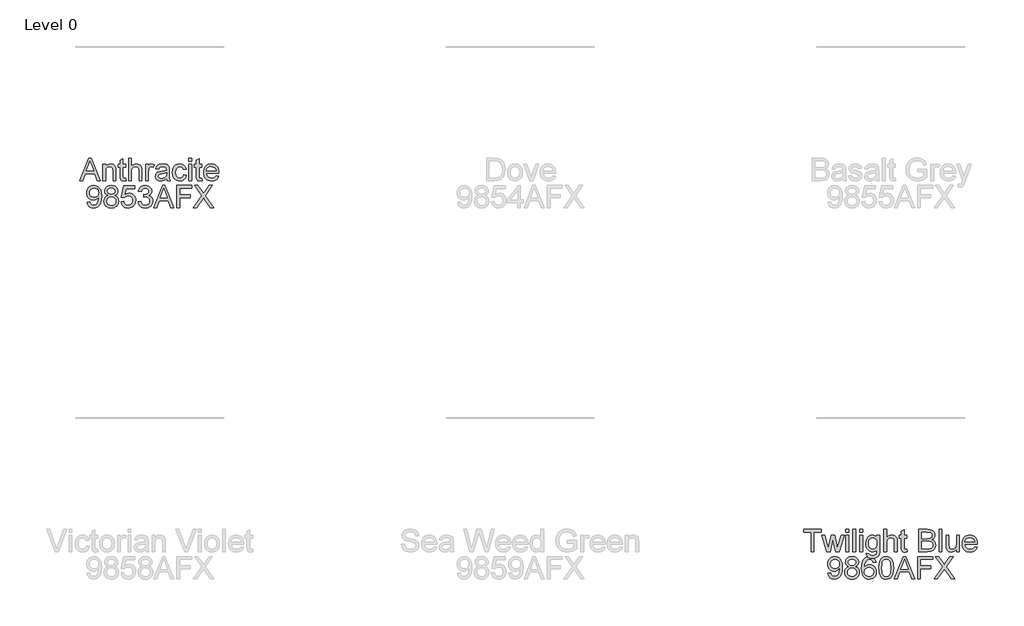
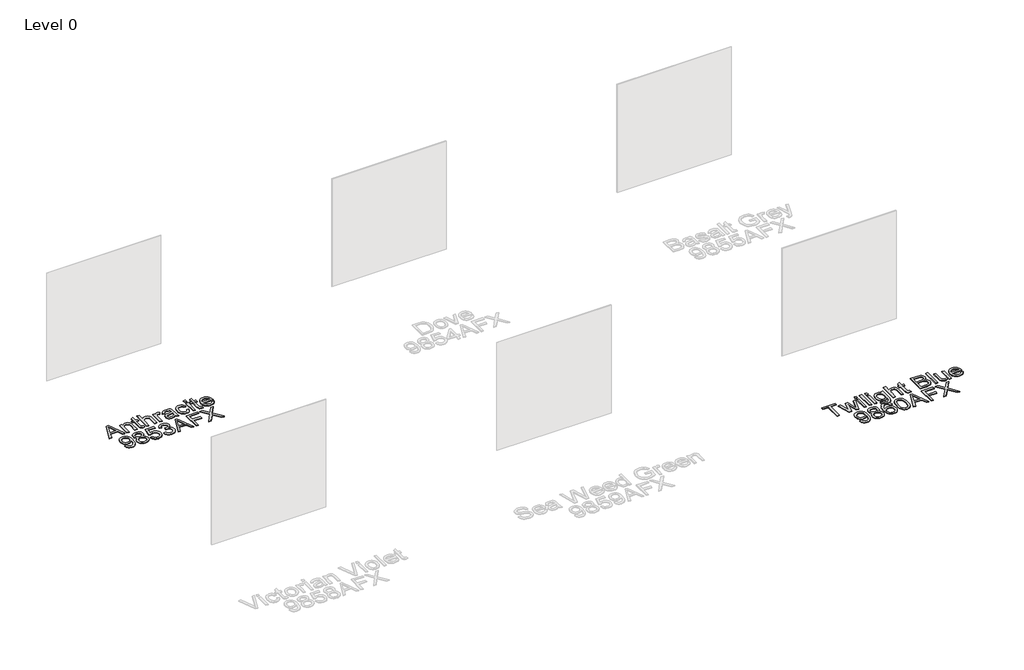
# One storey, part 7 of 10: 2 proxies.
"""IFC4 building model written with IfcOpenShell, lengths in millimetres."""

import ifcopenshell
import ifcopenshell.guid

model = None  # the IFC model being written
_history = None  # IfcOwnerHistory: only IFC2X3 demands one
_inside = {}  # id of a spatial element -> (the spatial element, [elements in it])
_under = {}  # id of a project, library or spatial element -> (it, [spatial elements below it])
_declared = {}  # id of a project -> (the project, [libraries it declares])
_typed = {}  # id of a type object -> (the type object, [elements of that type])
_made_of = {}  # id of a material, layer set ... -> (it, [elements and type objects made of it])


def new_model(schema):
    """Start an empty IFC model of exactly this schema.

    Asked for "IFC4X3", IfcOpenShell would pick the latest addendum, in which some entities
    have other attributes; the version numbers below select the first issue.
    IFC2X3 requires an IfcOwnerHistory on every rooted entity: one is made here for all.
    """
    global model, _history
    if schema == "IFC4X3":
        model = ifcopenshell.file(schema_version=(4, 3, 0, 0))
    else:
        model = ifcopenshell.file(schema=schema)
    _inside.clear()
    _under.clear()
    _declared.clear()
    _typed.clear()
    _made_of.clear()
    _history = None
    if model.schema == "IFC2X3":
        org = make("IfcOrganization", Name="unknown")
        user = make(
            "IfcPersonAndOrganization",
            ThePerson=make("IfcPerson", FamilyName="unknown"),
            TheOrganization=org,
        )
        app = make(
            "IfcApplication",
            ApplicationDeveloper=org,
            Version="unknown",
            ApplicationFullName="unknown",
            ApplicationIdentifier="unknown",
        )
        _history = make(
            "IfcOwnerHistory",
            OwningUser=user,
            OwningApplication=app,
            ChangeAction="ADDED",
            CreationDate=0,
        )
    return model


def make(cls, **values):
    """One entity of the class cls with the attributes given. An attribute that is None is left unset."""
    return model.create_entity(
        cls, **{name: value for name, value in values.items() if value is not None}
    )


def rooted(cls, **values):
    """An entity with a GlobalId (a new one), such as an element, a storey or a relation."""
    return make(cls, GlobalId=ifcopenshell.guid.new(), OwnerHistory=_history, **values)


def si_unit(unit_type, name, prefix=None):
    """IfcSIUnit, for example si_unit("LENGTHUNIT", "METRE", prefix="MILLI")."""
    return make("IfcSIUnit", UnitType=unit_type, Prefix=prefix, Name=name)


def assignment(units):
    """IfcUnitAssignment: the units of a project."""
    return None if units is None else make("IfcUnitAssignment", Units=units)


def point(xyz):
    """IfcCartesianPoint."""
    return None if xyz is None else make("IfcCartesianPoint", Coordinates=xyz)


def direction(xyz):
    """IfcDirection."""
    return None if xyz is None else make("IfcDirection", DirectionRatios=xyz)


def frame(location, z_axis=None, x_axis=None):
    """IfcAxis2Placement3D, a coordinate frame: its origin and axes. An axis left out is left unset."""
    return make(
        "IfcAxis2Placement3D",
        Location=point(location),
        Axis=direction(z_axis),
        RefDirection=direction(x_axis),
    )


def origin():
    """The frame at (0, 0, 0) with its axes left unset."""
    return frame((0.0, 0.0, 0.0))


def origin_with_axes():
    """The frame at (0, 0, 0) with the z axis (0, 0, 1) and the x axis (1, 0, 0) written out."""
    return frame((0.0, 0.0, 0.0), z_axis=(0.0, 0.0, 1.0), x_axis=(1.0, 0.0, 0.0))


def place(relative_to, where):
    """IfcLocalPlacement: puts the frame where relative to a parent placement (None: the world)."""
    return make(
        "IfcLocalPlacement", PlacementRelTo=relative_to, RelativePlacement=where
    )


def context(
    kind, dimensions, precision=None, world=None, true_north=None, identifier=None
):
    """IfcGeometricRepresentationContext, for example the 3D "Model" context."""
    return make(
        "IfcGeometricRepresentationContext",
        ContextIdentifier=identifier,
        ContextType=kind,
        CoordinateSpaceDimension=dimensions,
        Precision=precision,
        WorldCoordinateSystem=world,
        TrueNorth=true_north,
    )


def project(units=None, contexts=None):
    """IfcProject with its units and contexts."""
    return rooted(
        "IfcProject",
        Name="project",
        RepresentationContexts=contexts,
        UnitsInContext=assignment(units),
    )


def spatial(cls, under=None, at=None, **own):
    """A site, building, storey or space (cls), placed at a placement, below another one or the project."""
    s = rooted(cls, ObjectPlacement=at, **own)
    if under is not None:
        _under.setdefault(under.id(), (under, []))[1].append(s)
    return s


def polyline(points):
    """IfcPolyline through the points."""
    return make("IfcPolyline", Points=[point(p) for p in points])


def outline(outer, holes=None, kind="AREA"):
    """IfcArbitraryClosedProfileDef: a profile drawn as a closed curve; with holes, ...WithVoids."""
    if holes is None:
        return make("IfcArbitraryClosedProfileDef", ProfileType=kind, OuterCurve=outer)
    return make(
        "IfcArbitraryProfileDefWithVoids",
        ProfileType=kind,
        OuterCurve=outer,
        InnerCurves=holes,
    )


def extrude(swept, where, along, depth):
    """IfcExtrudedAreaSolid: the profile swept, set in the frame where, extruded along a direction by depth."""
    return make(
        "IfcExtrudedAreaSolid",
        SweptArea=swept,
        Position=where,
        ExtrudedDirection=direction(along),
        Depth=depth,
    )


def shape(context_of_items, identifier, shape_type, items):
    """IfcShapeRepresentation: the items that make up one representation, for example the "Body"."""
    return make(
        "IfcShapeRepresentation",
        ContextOfItems=context_of_items,
        RepresentationIdentifier=identifier,
        RepresentationType=shape_type,
        Items=items,
    )


def made_of(thing, what):
    """Note that an element or type object is made of a material, layer set ...; save() writes the relation."""
    if what is not None:
        _made_of.setdefault(what.id(), (what, []))[1].append(thing)
    return thing


def element(
    cls,
    number,
    at=None,
    inside=None,
    cuts=None,
    type_object=None,
    material=None,
    context=None,
    identifier="Body",
    shape_type=None,
    held_by="IfcProductDefinitionShape",
    body=None,
    shapes=None,
    **own,
):
    """One element of the class cls, such as IfcWall. Its Tag is "e" and its number.

    at: its placement. inside: the storey or other place that contains it. cuts: it is an
    opening in that element (IfcRelVoidsElement). A single representation is given by context,
    identifier, shape_type and body (its items); several are given by shapes. held_by: the class
    of the entity that holds the representations. save() writes the other relations.
    """
    e = rooted(cls, Tag="e%d" % number, ObjectPlacement=at, **own)
    if body is not None:
        shapes = [shape(context, identifier, shape_type, body)]
    if shapes is not None:
        e.Representation = make(held_by, Representations=shapes)
    if inside is not None:
        _inside.setdefault(inside.id(), (inside, []))[1].append(e)
    if cuts is not None:
        rooted(
            "IfcRelVoidsElement", RelatingBuildingElement=cuts, RelatedOpeningElement=e
        )
    if type_object is not None:
        _typed.setdefault(type_object.id(), (type_object, []))[1].append(e)
    return made_of(e, material)


def aggregate(whole, parts):
    """IfcRelAggregates: a whole, such as a stair, and the parts it consists of."""
    return rooted("IfcRelAggregates", RelatingObject=whole, RelatedObjects=parts)


def save(model, path):
    """Write the relations noted so far, then the file.

    IfcRelAggregates (storeys below a building ...), IfcRelContainedInSpatialStructure (elements
    in a storey), IfcRelDefinesByType, IfcRelAssociatesMaterial and IfcRelDeclares: one each for
    every whole, place, type object, material and project.
    """
    for whole, parts in _under.values():
        aggregate(whole, parts)
    for where, things in _inside.values():
        rooted(
            "IfcRelContainedInSpatialStructure",
            RelatedElements=things,
            RelatingStructure=where,
        )
    for kind, things in _typed.values():
        rooted("IfcRelDefinesByType", RelatedObjects=things, RelatingType=kind)
    for what, things in _made_of.values():
        rooted("IfcRelAssociatesMaterial", RelatedObjects=things, RelatingMaterial=what)
    for by, libraries in _declared.values():
        rooted("IfcRelDeclares", RelatingContext=by, RelatedDefinitions=libraries)
    model.write(path)


model = new_model("IFC4")

# Units and contexts
model_context = context("Model", 3, world=origin())
ifc_project = project(units=[si_unit("LENGTHUNIT", "METRE", prefix="MILLI")], contexts=[model_context])

# Site, building, storey
site = spatial("IfcSite", under=ifc_project)
building = spatial("IfcBuilding", under=site)
storey = spatial("IfcBuildingStorey", under=building, Name="Level 0", Elevation=0.0)

# Proxies
placement = place(None, origin())
element("IfcBuildingElementProxy", 1, Name="300mm Arial", ObjectType="300mm Arial", at=placement, inside=storey, context=model_context, shape_type="SweptSolid", body=[
    extrude(outline(polyline([(-394.5696795, -7002.860494), (-274.2722671, -6701.4915635), (-242.1929571, -6701.4915635), (-121.8955447, -7002.860494), (-161.7003766, -7002.860494), (-196.2077077, -6908.6827032), (-320.3310929, -6908.6827032), (-354.7648477, -7002.860494), (-394.5696795, -7002.860494)]), holes=[polyline([(-306.4987299, -6871.0115869), (-209.9664944, -6871.0115869), (-237.1161856, -6796.9201531), (-258.2326121, -6739.1626798), (-276.9945939, -6790.44543), (-306.4987299, -6871.0115869)])]), origin_with_axes(), (0.0, 0.0, 1.0), 10.0),
    extrude(outline(polyline([(-86.358144, -7002.860494), (-86.358144, -6781.5426857), (-48.6870277, -6781.5426857), (-48.6870277, -6812.4447733), (-35.5996257, -6796.8649708), (-19.8818674, -6785.7365404), (-1.5337529, -6779.0594822), (19.4447178, -6776.8337961), (38.0135615, -6778.6272209), (55.0189068, -6784.0074951), (69.2007577, -6792.303234), (79.2991185, -6802.8430532), (90.5930957, -6830.5445674), (92.5796585, -6866.964885), (92.5796585, -7002.860494), (54.9085422, -7002.860494), (54.9085422, -6872.0416565), (50.5675346, -6838.7115477), (44.5618611, -6828.7879309), (35.2268554, -6821.0900002), (23.2614935, -6816.1511844), (9.3647512, -6814.5049125), (-12.6989715, -6818.2021265), (-31.5069385, -6829.2937687), (-39.0232275, -6838.3482643), (-44.3920054, -6850.7228949), (-48.6870277, -6885.4325611), (-48.6870277, -7002.860494), (-86.358144, -7002.860494)])), origin_with_axes(), (0.0, 0.0, 1.0), 10.0),
    extrude(outline(polyline([(224.4285656, -6971.4433716), (229.1374551, -7003.96414), (200.9576943, -7007.5693835), (182.8762942, -7006.005885), (169.3934191, -7001.3153896), (159.8652754, -6994.0865084), (153.6480697, -6984.9078526), (150.2267671, -6969.1441091), (149.0863329, -6942.1599648), (149.0863329, -6819.213802), (120.8329957, -6819.213802), (120.8329957, -6781.5426857), (149.0863329, -6781.5426857), (149.0863329, -6727.758338), (186.7574492, -6705.6118419), (186.7574492, -6781.5426857), (224.4285656, -6781.5426857), (224.4285656, -6819.213802), (186.7574492, -6819.213802), (186.7574492, -6941.0563188), (188.744012, -6960.4804881), (195.1819469, -6967.3598814), (208.0210286, -6969.8982672), (224.4285656, -6971.4433716)])), origin_with_axes(), (0.0, 0.0, 1.0), 10.0),
    extrude(outline(polyline([(262.0996819, -7002.860494), (262.0996819, -6701.4915635), (299.7707982, -6701.4915635), (299.7707982, -6812.2976205), (313.6077597, -6796.7821973), (329.1461755, -6785.6997522), (346.3860455, -6779.0502852), (365.3273697, -6776.8337961), (388.0808711, -6779.2526203), (407.6337992, -6786.5090926), (423.0296606, -6798.0329961), (433.3119624, -6813.2541137), (439.1061038, -6834.1682051), (441.0374843, -6862.7710302), (441.0374843, -7002.860494), (403.366368, -7002.860494), (403.366368, -6866.6705794), (400.3681297, -6843.0893435), (391.373415, -6826.9393239), (376.8788644, -6817.6135153), (357.3811186, -6814.5049125), (341.4610253, -6816.6018398), (326.5158192, -6822.8926219), (314.1365901, -6832.7702535), (305.9144275, -6845.6277292), (301.3067055, -6862.7158479), (299.7707982, -6885.2854083), (299.7707982, -7002.860494), (262.0996819, -7002.860494)])), origin_with_axes(), (0.0, 0.0, 1.0), 10.0),
    extrude(outline(polyline([(492.8352692, -7002.860494), (492.8352692, -6781.5426857), (525.797496, -6781.5426857), (525.797496, -6814.2841833), (537.97439, -6795.3014723), (549.1947909, -6784.1178596), (560.4519799, -6778.654812), (572.7392386, -6776.8337961), (591.5012203, -6779.7400639), (610.5575077, -6788.4588672), (597.9759435, -6822.2304343), (584.7321916, -6816.4362929), (571.4884398, -6814.5049125), (560.2404478, -6816.3627165), (550.1880723, -6821.9361288), (542.0670772, -6830.8020848), (536.6132267, -6842.5375205), (532.0330958, -6863.5803706), (530.5063855, -6886.5362071), (530.5063855, -7002.860494), (492.8352692, -7002.860494)])), origin_with_axes(), (0.0, 0.0, 1.0), 10.0),
    extrude(outline(polyline([(775.3686415, -6974.6071568), (757.3700149, -6990.0398064), (738.8379594, -7000.1381672), (719.3494107, -7005.7115794), (698.4813045, -7007.5693835), (666.9998028, -7003.0996173), (643.7772519, -6989.6903186), (629.4574452, -6969.3280501), (624.6841763, -6943.9993748), (626.4867981, -6928.3827841), (631.8946634, -6914.2009331), (640.2363877, -6902.0608273), (650.8405862, -6892.5694718), (677.2177252, -6880.2086368), (709.81207, -6874.5432541), (748.3293149, -6868.5835657), (775.1479123, -6861.5938078), (775.3686415, -6853.2060983), (772.7750735, -6836.3938912), (764.9943693, -6825.3942195), (747.5935509, -6817.2272392), (723.3501274, -6814.5049125), (700.9093257, -6816.3167313), (685.2375527, -6821.7521878), (674.5505808, -6831.8045633), (667.0641821, -6847.4671392), (629.3930658, -6842.7582497), (635.9321683, -6822.156858), (645.6902382, -6805.9700502), (659.5777835, -6793.590821), (678.5053122, -6784.4121652), (701.6542867, -6778.7283884), (728.2061697, -6776.8337961), (753.6728009, -6778.5076592), (773.8603253, -6783.5292485), (789.0814429, -6791.0800264), (799.6488532, -6800.3414556), (806.6570052, -6811.7917827), (811.2003479, -6825.9092543), (813.0397578, -6858.8714811), (813.0397578, -6905.7396473), (814.9527442, -6971.1858542), (822.4575369, -7002.860494), (784.7864206, -7002.860494), (775.3686415, -6974.6071568)]), holes=[polyline([(775.3686415, -6899.2649241), (714.5945359, -6910.8164188), (682.1841322, -6916.9232599), (667.5056405, -6926.8560738), (662.3552926, -6941.3506244), (665.1603928, -6952.5526311), (673.5756935, -6961.7312869), (687.4172535, -6967.8565221), (706.501132, -6969.8982672), (726.7346418, -6967.64499), (744.6137067, -6960.8851583), (759.1082573, -6950.9247533), (769.188224, -6939.069756), (773.6579903, -6926.8560738), (775.1479123, -6909.933502), (775.3686415, -6899.2649241)])]), origin_with_axes(), (0.0, 0.0, 1.0), 10.0),
    extrude(outline(polyline([(1006.1042289, -6922.8093718), (1043.7753452, -6927.5182614), (1033.2723142, -6961.0231141), (1013.5354452, -6986.3425924), (986.4225422, -7002.2626857), (953.7914092, -7007.5693835), (932.6634864, -7005.7184772), (913.7198629, -7000.1657584), (896.9605387, -6990.9112269), (882.3855139, -6977.9548829), (870.5879982, -6961.5404481), (862.1612012, -6941.9116444), (857.1051231, -6919.0684718), (855.4197637, -6893.0109302), (858.2984403, -6859.4876834), (866.9344701, -6830.4342028), (881.4658089, -6806.9725286), (902.0304125, -6790.2247008), (926.6325209, -6780.1815223), (953.2763744, -6776.8337961), (985.107364, -6781.4323211), (1010.555601, -6795.2278959), (1028.8117451, -6817.4847566), (1039.0664557, -6847.4671392), (1001.3953394, -6852.1760288), (994.5619313, -6835.7409006), (983.9209446, -6823.9594797), (970.0609904, -6816.8685543), (953.57068, -6814.5049125), (929.226089, -6819.1586197), (909.9030872, -6833.1197414), (897.2939318, -6857.1424357), (893.09088, -6891.9808606), (897.2019613, -6927.2883351), (909.5352052, -6951.3938029), (928.5087191, -6965.2721511), (952.5406104, -6969.8982672), (972.0475532, -6967.0103936), (988.0412229, -6958.3467726), (999.675491, -6943.6866751), (1006.1042289, -6922.8093718)])), origin_with_axes(), (0.0, 0.0, 1.0), 10.0),
    extrude(outline(polyline([(1076.737572, -6739.1626798), (1076.737572, -6701.4915635), (1114.4086883, -6701.4915635), (1114.4086883, -6739.1626798), (1076.737572, -6739.1626798)])), origin_with_axes(), (0.0, 0.0, 1.0), 10.0),
    extrude(outline(polyline([(1076.737572, -7002.860494), (1076.737572, -6781.5426857), (1114.4086883, -6781.5426857), (1114.4086883, -7002.860494), (1076.737572, -7002.860494)])), origin_with_axes(), (0.0, 0.0, 1.0), 10.0),
    extrude(outline(polyline([(1250.9664849, -6971.4433716), (1255.6753744, -7003.96414), (1227.4956136, -7007.5693835), (1209.4142135, -7006.005885), (1195.9313384, -7001.3153896), (1186.4031947, -6994.0865084), (1180.185989, -6984.9078526), (1176.7646865, -6969.1441091), (1175.6242523, -6942.1599648), (1175.6242523, -6819.213802), (1147.3709151, -6819.213802), (1147.3709151, -6781.5426857), (1175.6242523, -6781.5426857), (1175.6242523, -6727.758338), (1213.2953686, -6705.6118419), (1213.2953686, -6781.5426857), (1250.9664849, -6781.5426857), (1250.9664849, -6819.213802), (1213.2953686, -6819.213802), (1213.2953686, -6941.0563188), (1215.2819314, -6960.4804881), (1221.7198663, -6967.3598814), (1234.5589479, -6969.8982672), (1250.9664849, -6971.4433716)])), origin_with_axes(), (0.0, 0.0, 1.0), 10.0),
    extrude(outline(polyline([(1443.5894976, -6936.9360404), (1480.5248499, -6941.64493), (1467.2167187, -6969.4752029), (1445.9807305, -6990.2789297), (1417.295132, -7003.2467701), (1381.6381696, -7007.5693835), (1358.2638673, -7005.7046817), (1337.4371479, -7000.1105761), (1319.1580112, -6990.7870668), (1303.4264574, -6977.7341537), (1290.7759153, -6961.3151204), (1281.7398138, -6941.8932503), (1276.3181529, -6919.4685435), (1274.5109326, -6894.0409998), (1276.336547, -6867.7512327), (1281.8133902, -6844.5792656), (1290.9414622, -6824.5250983), (1303.720763, -6807.5887309), (1319.4109301, -6794.133447), (1337.271601, -6784.5225298), (1357.3027756, -6778.7559796), (1379.504454, -6776.8337961), (1400.9910618, -6778.751381), (1420.4221289, -6784.5041357), (1437.7976554, -6794.0920602), (1453.1176412, -6807.5151545), (1465.6233298, -6824.4147337), (1474.5559645, -6844.4321128), (1479.9155453, -6867.5672917), (1481.7020723, -6893.8202706), (1481.4813431, -6903.9738137), (1312.1820489, -6903.9738137), (1318.7027573, -6932.1719686), (1333.8502984, -6952.902119), (1355.711686, -6965.6492302), (1382.3739336, -6969.8982672), (1402.4235023, -6967.9300985), (1419.3092859, -6962.0255925), (1433.0312843, -6951.8168672), (1443.5894976, -6936.9360404)]), holes=[polyline([(1312.1820489, -6866.3026974), (1444.030956, -6866.3026974), (1438.9357903, -6846.4002814), (1428.9477942, -6832.1632482), (1406.985239, -6818.9194964), (1379.3573012, -6814.5049125), (1353.9642465, -6818.0273826), (1332.9673816, -6828.5947929), (1318.3716635, -6845.0667092), (1312.1820489, -6866.3026974)])]), origin_with_axes(), (0.0, 0.0, 1.0), 10.0),
    extrude(outline(polyline([(-295.9037284, -7293.4427149), (-258.2326121, -7288.7338254), (-251.7946772, -7310.1169663), (-241.3100403, -7324.6758963), (-227.0362189, -7333.0360146), (-209.2307304, -7335.8227207), (-193.2554547, -7334.029296), (-178.733313, -7328.6490218), (-166.6667835, -7320.2705094), (-158.0583448, -7309.4823699), (-145.734298, -7276.7408723), (-140.2896445, -7233.0364913), (-140.5103737, -7225.6788514), (-153.5609874, -7241.6081418), (-170.6399091, -7254.2264942), (-190.5147339, -7262.4486568), (-211.9530571, -7265.1893777), (-229.8482169, -7263.5155146), (-246.3040384, -7258.4939254), (-261.3205216, -7250.12461), (-274.8976665, -7238.4075684), (-286.1479578, -7223.9544045), (-294.1838801, -7207.3767221), (-299.0054335, -7188.6745212), (-300.612618, -7167.8478018), (-298.9272586, -7146.326705), (-293.8711804, -7127.0129003), (-285.4443835, -7109.9063875), (-273.6468677, -7095.0071667), (-259.3109662, -7082.9360387), (-243.269012, -7074.3138045), (-225.521005, -7069.1404639), (-206.0669452, -7067.4160171), (-177.9699578, -7071.3523544), (-152.3929621, -7083.1613665), (-131.0006241, -7102.254442), (-115.4576098, -7128.0429699), (-105.9938455, -7163.6907352), (-102.8392574, -7212.3615232), (-105.9846484, -7263.96617), (-115.4208216, -7303.8537754), (-131.0650034, -7333.8269609), (-152.8344205, -7355.6883485), (-179.7909737, -7369.0424649), (-210.9965639, -7373.4938371), (-243.2046326, -7368.2423216), (-268.90119, -7352.4877751), (-286.8722254, -7327.2234791), (-295.9037284, -7293.4427149)]), holes=[polyline([(-140.5103737, -7166.964885), (-144.5754697, -7141.4338745), (-156.7707578, -7121.788976), (-175.6982865, -7109.262594), (-199.9601041, -7105.0871334), (-225.1232326, -7109.5844908), (-245.2831659, -7123.0765629), (-258.5269177, -7143.7239399), (-262.9415017, -7169.6872117), (-258.766041, -7192.964945), (-246.2396591, -7211.4418182), (-226.5763664, -7223.4991506), (-200.9901737, -7227.5182614), (-176.9214941, -7223.4991506), (-157.54331, -7211.4418182), (-144.7686078, -7192.2843633), (-140.5103737, -7166.964885)])]), origin_with_axes(), (0.0, 0.0, 1.0), 10.0),
    extrude(outline(polyline([(-14.9890369, -7202.7965913), (-35.1581673, -7192.8637774), (-49.3124271, -7179.3992964), (-57.6725454, -7162.6790597), (-60.4592515, -7142.9789789), (-58.9417383, -7127.6153071), (-54.3891986, -7113.5300252), (-46.8016324, -7100.7231332), (-36.1790398, -7089.1946312), (-23.031857, -7079.6664875), (-7.8705203, -7072.8606706), (28.4946149, -7067.4160171), (65.0804793, -7072.9894293), (80.407363, -7079.9561946), (93.7568809, -7089.709666), (104.5726115, -7101.4634957), (112.2981334, -7114.4313361), (116.9334466, -7128.613187), (118.4785509, -7144.0090485), (115.728633, -7163.0745329), (107.4788793, -7179.509661), (93.6373192, -7192.8913686), (74.1119823, -7202.7965913), (97.2977451, -7214.7435591), (114.1743316, -7232.3375155), (124.4658304, -7254.732332), (127.89633, -7281.0818799), (126.1948758, -7299.8714528), (121.0905131, -7317.0975272), (112.583242, -7332.7601031), (100.6730624, -7346.8591806), (85.9853737, -7358.5118428), (69.1455754, -7366.8351729), (50.1536674, -7371.829171), (29.0096497, -7373.4938371), (7.865632, -7371.8222732), (-11.126276, -7366.8075818), (-27.9660743, -7358.4497627), (-42.6537629, -7346.748816), (-54.5639425, -7332.5508703), (-63.0712137, -7316.702054), (-68.1755764, -7299.2023674), (-69.8770306, -7280.0518103), (-66.3085752, -7252.6813898), (-55.6032092, -7230.1670117), (-38.3127554, -7213.2812282), (-14.9890369, -7202.7965913)]), holes=[polyline([(-32.2059143, -7278.7274351), (-25.9151322, -7307.0911369), (-17.2055259, -7319.2588339), (-3.6582715, -7328.317928), (12.5653245, -7333.9465226), (29.3039553, -7335.8227207), (54.9453304, -7331.8771864), (74.1855587, -7320.0405832), (86.2153, -7302.1155329), (90.2252137, -7279.9046575), (86.0865413, -7257.316703), (73.6705239, -7238.9961796), (53.9888372, -7226.8560738), (28.0531565, -7222.8093718), (2.7704664, -7226.8008915), (-16.2766239, -7238.7754504), (-28.2235917, -7256.7464859), (-32.2059143, -7278.7274351)]), polyline([(-22.7881352, -7144.0826249), (-19.4496061, -7160.52695), (-9.4340188, -7173.6603373), (6.9643212, -7182.268776), (29.4511081, -7185.1382555), (51.4136632, -7182.2871701), (67.5636828, -7173.7339137), (77.4964967, -7161.0419848), (80.8074346, -7145.774882), (77.3861321, -7129.9283651), (67.1222244, -7116.822569), (50.7514756, -7108.0209923), (29.0096497, -7105.0871334), (7.1298681, -7107.9566129), (-9.2132896, -7116.5650516), (-19.3944238, -7129.1834041), (-22.7881352, -7144.0826249)])]), origin_with_axes(), (0.0, 0.0, 1.0), 10.0),
    extrude(outline(polyline([(160.8585568, -7288.7338254), (198.5296731, -7284.0249358), (205.4458546, -7306.6404815), (217.512384, -7322.8364863), (234.6740791, -7332.5761621), (256.8757575, -7335.8227207), (283.878296, -7331.3069693), (304.1118057, -7317.7597148), (316.7485522, -7296.7444558), (320.9608011, -7269.8246908), (317.0152667, -7244.4776213), (305.1786635, -7225.0902402), (285.359021, -7212.7845875), (257.4643687, -7208.6827032), (239.1898306, -7210.3197781), (224.3917774, -7215.2310027), (203.2385626, -7232.2271509), (165.5674463, -7227.5182614), (198.5296731, -7072.1249066), (344.5052488, -7072.1249066), (344.5052488, -7109.7960229), (228.9903023, -7109.7960229), (212.8770709, -7192.790201), (239.7876389, -7176.4562404), (267.9857938, -7171.0115869), (286.331609, -7172.6992456), (303.1829037, -7177.7622215), (318.5396777, -7186.2005148), (332.4019311, -7198.0141254), (343.8775501, -7212.4810848), (352.0744208, -7228.8794248), (356.9925433, -7247.2091452), (358.6319174, -7267.470246), (352.7274114, -7305.1413624), (345.3467788, -7321.9351754), (335.0138933, -7337.3678251), (319.3605144, -7353.1729553), (301.0951733, -7364.4623341), (280.2178701, -7371.2359613), (256.7286047, -7373.4938371), (219.7288731, -7367.6904986), (204.0502023, -7360.4363255), (190.2523282, -7350.2804832), (178.7721107, -7337.7288093), (170.0464096, -7323.2871418), (160.8585568, -7288.7338254)])), origin_with_axes(), (0.0, 0.0, 1.0), 10.0),
    extrude(outline(polyline([(391.5941442, -7288.7338254), (429.2652605, -7284.0249358), (437.6989552, -7307.6981422), (450.0505932, -7323.6826149), (466.9271797, -7332.7876943), (488.9357201, -7335.8227207), (514.7610361, -7331.6472601), (534.7002403, -7319.1208782), (547.4473514, -7300.4324728), (551.6963885, -7277.7709419), (547.4841396, -7256.2590422), (534.8473931, -7238.8122386), (515.7175293, -7227.2515469), (492.0259288, -7223.397983), (465.6120016, -7227.5182614), (469.8058563, -7189.8471451), (475.8391211, -7190.2886035), (498.4086815, -7187.5846708), (518.5870089, -7179.4728728), (532.8240421, -7165.7508744), (537.5697198, -7146.2163404), (534.1300232, -7129.9467592), (523.8109332, -7116.7489926), (508.0655838, -7108.0025982), (488.3471089, -7105.0871334), (468.5918458, -7108.0301893), (452.4418262, -7116.8593572), (440.6512082, -7131.574637), (433.97415, -7152.1760288), (396.3030337, -7147.4671392), (407.3946759, -7113.6403898), (427.1315449, -7088.3852908), (454.1340833, -7072.6583355), (487.0227337, -7067.4160171), (510.7051371, -7070.0003881), (532.4561601, -7077.7535011), (550.7950776, -7089.9855775), (564.2411645, -7106.0068384), (572.4909182, -7124.4653175), (575.2408362, -7144.0090485), (572.628874, -7162.2192072), (564.7929875, -7178.7371088), (551.8435413, -7192.8085951), (533.8908999, -7203.6795081), (557.4721358, -7213.2076518), (574.9465306, -7229.4312477), (585.7622612, -7251.4673793), (589.3675048, -7278.4331295), (587.564883, -7297.5445992), (582.1570177, -7315.1477526), (573.1439088, -7331.2425899), (560.5255563, -7345.829111), (545.1526875, -7357.9324287), (527.8760293, -7366.5776555), (508.6955818, -7371.7647917), (487.6113449, -7373.4938371), (468.5550576, -7372.0177105), (451.1910274, -7367.589331), (435.5192544, -7360.2086985), (421.5397386, -7349.875813), (409.8180985, -7337.1976797), (400.9199527, -7322.781304), (394.8453013, -7306.6266859), (391.5941442, -7288.7338254)])), origin_with_axes(), (0.0, 0.0, 1.0), 10.0),
    extrude(outline(polyline([(601.3604578, -7368.7849475), (721.6578702, -7067.4160171), (753.7371802, -7067.4160171), (874.0345926, -7368.7849475), (834.2297608, -7368.7849475), (799.7224296, -7274.6071568), (675.5990444, -7274.6071568), (641.1652897, -7368.7849475), (601.3604578, -7368.7849475)]), holes=[polyline([(689.4314075, -7236.9360404), (785.963643, -7236.9360404), (758.8139517, -7162.8446066), (737.6975252, -7105.0871334), (718.9355435, -7156.3698835), (689.4314075, -7236.9360404)])]), origin_with_axes(), (0.0, 0.0, 1.0), 10.0),
    extrude(outline(polyline([(914.2808829, -7368.7849475), (914.2808829, -7067.4160171), (1116.7631331, -7067.4160171), (1116.7631331, -7105.0871334), (951.9519992, -7105.0871334), (951.9519992, -7194.5560346), (1093.2186854, -7194.5560346), (1093.2186854, -7232.2271509), (951.9519992, -7232.2271509), (951.9519992, -7368.7849475), (914.2808829, -7368.7849475)])), origin_with_axes(), (0.0, 0.0, 1.0), 10.0),
    extrude(outline(polyline([(1135.5986912, -7368.7849475), (1251.7758253, -7204.5624249), (1154.4342494, -7067.4160171), (1199.6101584, -7067.4160171), (1254.4245756, -7144.5976597), (1272.8922518, -7174.6904069), (1294.5237131, -7144.0826249), (1348.7495192, -7067.4160171), (1394.5876158, -7067.4160171), (1297.2460399, -7205.0038833), (1413.423174, -7368.7849475), (1368.247265, -7368.7849475), (1290.8448932, -7259.5975713), (1274.7316618, -7236.9360404), (1256.9997496, -7261.8048633), (1181.4367878, -7368.7849475), (1135.5986912, -7368.7849475)])), origin_with_axes(), (0.0, 0.0, 1.0), 10.0),
])
element("IfcBuildingElementProxy", 2, Name="300mm Arial", ObjectType="300mm Arial", at=placement, inside=storey, context=model_context, shape_type="SweptSolid", body=[
    extrude(outline(polyline([(9475.715129, -12012.860494), (9475.715129, -11749.1626798), (9376.8284487, -11749.1626798), (9376.8284487, -11711.4915635), (9612.2729256, -11711.4915635), (9612.2729256, -11749.1626798), (9513.3862453, -11749.1626798), (9513.3862453, -12012.860494), (9475.715129, -12012.860494)])), origin_with_axes(), (0.0, 0.0, 1.0), 10.0),
    extrude(outline(polyline([(9686.658665, -12012.860494), (9619.3362599, -11791.5426857), (9658.4789042, -11791.5426857), (9696.6650553, -11920.669266), (9708.0693971, -11966.8016682), (9717.4135998, -11922.3615232), (9747.8006526, -11791.5426857), (9792.682256, -11791.5426857), (9822.922156, -11921.9936412), (9831.2362891, -11962.2399314), (9843.1556658, -11919.7863492), (9881.4153932, -11791.5426857), (9920.7051903, -11791.5426857), (9852.8677504, -12012.860494), (9807.3239594, -12012.860494), (9778.4084346, -11883.0717261), (9770.0207251, -11842.6047066), (9732.7174908, -12012.860494), (9686.658665, -12012.860494)])), origin_with_axes(), (0.0, 0.0, 1.0), 10.0),
    extrude(outline(polyline([(9946.6040828, -11749.1626798), (9946.6040828, -11711.4915635), (9984.2751991, -11711.4915635), (9984.2751991, -11749.1626798), (9946.6040828, -11749.1626798)])), origin_with_axes(), (0.0, 0.0, 1.0), 10.0),
    extrude(outline(polyline([(9946.6040828, -12012.860494), (9946.6040828, -11791.5426857), (9984.2751991, -11791.5426857), (9984.2751991, -12012.860494), (9946.6040828, -12012.860494)])), origin_with_axes(), (0.0, 0.0, 1.0), 10.0),
    extrude(outline(polyline([(10040.7818736, -12012.860494), (10040.7818736, -11711.4915635), (10078.4529899, -11711.4915635), (10078.4529899, -12012.860494), (10040.7818736, -12012.860494)])), origin_with_axes(), (0.0, 0.0, 1.0), 10.0),
    extrude(outline(polyline([(10134.9596643, -11749.1626798), (10134.9596643, -11711.4915635), (10172.6307806, -11711.4915635), (10172.6307806, -11749.1626798), (10134.9596643, -11749.1626798)])), origin_with_axes(), (0.0, 0.0, 1.0), 10.0),
    extrude(outline(polyline([(10134.9596643, -12012.860494), (10134.9596643, -11791.5426857), (10172.6307806, -11791.5426857), (10172.6307806, -12012.860494), (10134.9596643, -12012.860494)])), origin_with_axes(), (0.0, 0.0, 1.0), 10.0),
    extrude(outline(polyline([(10219.719676, -12031.6960521), (10257.3907923, -12036.4049417), (10261.5478589, -12048.1771655), (10269.6044746, -12056.2705694), (10285.4417945, -12062.5613515), (10306.1719449, -12064.6582789), (10328.2816528, -12062.28544), (10344.725978, -12055.1669234), (10356.1303198, -12043.7625816), (10363.1200777, -12028.532267), (10365.6952517, -11984.6071568), (10353.1596727, -11996.9679918), (10339.1709598, -12005.7971597), (10323.7291131, -12011.0946604), (10306.8341325, -12012.860494), (10286.1798577, -12010.8049533), (10267.9949908, -12004.6383314), (10252.2795318, -11994.3606281), (10239.0334808, -11979.9718436), (10228.523552, -11962.708981), (10221.01646, -11943.8090435), (10216.5122049, -11923.2720311), (10215.0107865, -11901.0979438), (10217.7055221, -11870.6832999), (10225.7897289, -11842.7150712), (10238.9782985, -11819.0142737), (10256.9861221, -11801.4019232), (10279.1969976, -11790.4758279), (10304.9947225, -11786.8337961), (10322.6116715, -11788.8939353), (10338.6007428, -11795.0743528), (10352.9619361, -11805.3750487), (10365.6952517, -11819.7960229), (10365.6952517, -11791.5426857), (10403.366368, -11791.5426857), (10403.366368, -11982.620594), (10400.791194, -12026.7388422), (10393.0656721, -12055.7923228), (10379.757541, -12075.0601423), (10360.4345392, -12089.8214074), (10335.519731, -12099.2023982), (10305.4361809, -12102.3293952), (10270.3862238, -12097.9240083), (10242.7858771, -12084.7078476), (10232.3909115, -12074.7865301), (10225.0815561, -12062.644125), (10220.8578109, -12048.2806323), (10219.719676, -12031.6960521)]), holes=[polyline([(10252.6819028, -11898.5227699), (10256.7010136, -11933.0760863), (10268.758346, -11956.8320661), (10286.8857313, -11970.6000498), (10309.1150008, -11975.1893777), (10331.1787235, -11970.6276409), (10349.3980793, -11956.9424307), (10361.6209586, -11933.4899535), (10365.6952517, -11899.6264159), (10361.501397, -11866.9676917), (10348.9198327, -11843.4508352), (10330.4337625, -11829.2413931), (10308.5263896, -11824.5049125), (10287.01449, -11829.1678167), (10268.9790752, -11843.1565296), (10256.7561959, -11866.3238983), (10252.6819028, -11898.5227699)])]), origin_with_axes(), (0.0, 0.0, 1.0), 10.0),
    extrude(outline(polyline([(10459.8730425, -12012.860494), (10459.8730425, -11711.4915635), (10497.5441588, -11711.4915635), (10497.5441588, -11822.2976205), (10511.3811203, -11806.7821973), (10526.9195361, -11795.6997522), (10544.1594061, -11789.0502852), (10563.1007303, -11786.8337961), (10585.8542317, -11789.2526203), (10605.4071598, -11796.5090926), (10620.8030213, -11808.0329961), (10631.085323, -11823.2541137), (10636.8794644, -11844.1682051), (10638.8108449, -11872.7710302), (10638.8108449, -12012.860494), (10601.1397286, -12012.860494), (10601.1397286, -11876.6705794), (10598.1414904, -11853.0893435), (10589.1467756, -11836.9393239), (10574.652225, -11827.6135153), (10555.1544792, -11824.5049125), (10539.2343859, -11826.6018398), (10524.2891798, -11832.8926219), (10511.9099507, -11842.7702535), (10503.6877881, -11855.6277292), (10499.0800661, -11872.7158479), (10497.5441588, -11895.2854083), (10497.5441588, -12012.860494), (10459.8730425, -12012.860494)])), origin_with_axes(), (0.0, 0.0, 1.0), 10.0),
    extrude(outline(polyline([(10770.659752, -11981.4433716), (10775.3686415, -12013.96414), (10747.1888807, -12017.5693835), (10729.1074806, -12016.005885), (10715.6246055, -12011.3153896), (10706.0964618, -12004.0865084), (10699.8792561, -11994.9078526), (10696.4579536, -11979.1441091), (10695.3175194, -11952.1599648), (10695.3175194, -11829.213802), (10667.0641821, -11829.213802), (10667.0641821, -11791.5426857), (10695.3175194, -11791.5426857), (10695.3175194, -11737.758338), (10732.9886357, -11715.6118419), (10732.9886357, -11791.5426857), (10770.659752, -11791.5426857), (10770.659752, -11829.213802), (10732.9886357, -11829.213802), (10732.9886357, -11951.0563188), (10734.9751985, -11970.4804881), (10741.4131334, -11977.3598814), (10754.252215, -11979.8982672), (10770.659752, -11981.4433716)])), origin_with_axes(), (0.0, 0.0, 1.0), 10.0),
    extrude(outline(polyline([(10930.7619963, -12012.860494), (10930.7619963, -11711.4915635), (11045.761908, -11711.4915635), (11077.3905625, -11713.7080526), (11102.0846414, -11720.3575196), (11121.0121701, -11731.6055116), (11135.3411738, -11747.6175755), (11144.3634797, -11766.4531336), (11147.3709151, -11786.1716086), (11144.8417263, -11804.317388), (11137.2541602, -11821.3779155), (11124.5530343, -11836.3047274), (11106.6831664, -11848.0493601), (11128.0295192, -11859.1961846), (11143.8024597, -11876.1555446), (11153.5421355, -11897.8054), (11156.7886941, -11923.0237108), (11154.5722051, -11944.0389697), (11147.922738, -11963.5275184), (11137.9991212, -11980.1006023), (11125.9601829, -11992.3694669), (11111.217312, -12001.253817), (11093.1818972, -12007.6733578), (11044.8789912, -12012.860494), (10930.7619963, -12012.860494)]), holes=[polyline([(10968.4331126, -11975.1893777), (11045.6883316, -11975.1893777), (11073.6473632, -11973.7178497), (11097.3021755, -11965.5140812), (11112.9739485, -11948.7754504), (11117.5816705, -11936.9480443), (11119.1175778, -11923.3915928), (11117.314956, -11907.6462434), (11111.9070907, -11894.1081859), (11102.4617205, -11883.5223815), (11088.546584, -11876.6337912), (11068.8373061, -11872.8538037), (11042.0095116, -11871.5938078), (10968.4331126, -11871.5938078), (10968.4331126, -11975.1893777)]), polyline([(10968.4331126, -11833.9226915), (11037.2270457, -11833.9226915), (11077.3997596, -11830.68533), (11091.4620488, -11825.1027207), (11101.5696067, -11816.7426024), (11107.6672507, -11805.7337336), (11109.6997987, -11792.2048733), (11107.8052065, -11779.071486), (11102.1214296, -11767.630356), (11092.9059857, -11758.7000206), (11080.4163919, -11753.0990172), (11032.0031214, -11749.1626798), (10968.4331126, -11749.1626798), (10968.4331126, -11833.9226915)])]), origin_with_axes(), (0.0, 0.0, 1.0), 10.0),
    extrude(outline(polyline([(11203.8775895, -12012.860494), (11203.8775895, -11711.4915635), (11241.5487058, -11711.4915635), (11241.5487058, -12012.860494), (11203.8775895, -12012.860494)])), origin_with_axes(), (0.0, 0.0, 1.0), 10.0),
    extrude(outline(polyline([(11439.3220664, -12012.860494), (11439.3220664, -11974.8214957), (11425.6920385, -11993.5236966), (11409.8179304, -12006.8824116), (11391.6997421, -12014.8976405), (11371.3374737, -12017.5693835), (11352.9893592, -12015.6931853), (11335.9104376, -12010.0645908), (11321.5814339, -12001.6033049), (11311.4830731, -11991.2290327), (11300.2626722, -11963.4907302), (11298.0553803, -11928.4683643), (11298.0553803, -11791.5426857), (11335.7264966, -11791.5426857), (11335.7264966, -11910.7364521), (11338.007365, -11949.1433324), (11343.4980037, -11961.9548229), (11352.9065858, -11971.6944987), (11365.6077116, -11977.8473251), (11380.975982, -11979.8982672), (11397.2271691, -11977.8013398), (11412.4298926, -11971.5105577), (11424.9654716, -11961.605335), (11433.2152253, -11948.6650858), (11437.7953561, -11930.9423707), (11439.3220664, -11906.6897502), (11439.3220664, -11791.5426857), (11476.9931827, -11791.5426857), (11476.9931827, -12012.860494), (11439.3220664, -12012.860494)])), origin_with_axes(), (0.0, 0.0, 1.0), 10.0),
    extrude(outline(polyline([(11683.742864, -11946.9360404), (11720.6782163, -11951.64493), (11707.3700852, -11979.4752029), (11686.134097, -12000.2789297), (11657.4484984, -12013.2467701), (11621.791536, -12017.5693835), (11598.4172338, -12015.7046817), (11577.5905143, -12010.1105761), (11559.3113777, -12000.7870668), (11543.5798239, -11987.7341537), (11530.9292817, -11971.3151204), (11521.8931802, -11951.8932503), (11516.4715193, -11929.4685435), (11514.664299, -11904.0409998), (11516.4899134, -11877.7512327), (11521.9667566, -11854.5792656), (11531.0948286, -11834.5250983), (11543.8741295, -11817.5887309), (11559.5642965, -11804.133447), (11577.4249674, -11794.5225298), (11597.4561421, -11788.7559796), (11619.6578205, -11786.8337961), (11641.1444282, -11788.751381), (11660.5754954, -11794.5041357), (11677.9510219, -11804.0920602), (11693.2710077, -11817.5151545), (11705.7766963, -11834.4147337), (11714.709331, -11854.4321128), (11720.0689118, -11877.5672917), (11721.8554387, -11903.8202706), (11721.6347095, -11913.9738137), (11552.3354153, -11913.9738137), (11558.8561237, -11942.1719686), (11574.0036649, -11962.902119), (11595.8650524, -11975.6492302), (11622.5273, -11979.8982672), (11642.5768688, -11977.9300985), (11659.4626523, -11972.0255925), (11673.1846508, -11961.8168672), (11683.742864, -11946.9360404)]), holes=[polyline([(11552.3354153, -11876.3026974), (11684.1843224, -11876.3026974), (11679.0891568, -11856.4002814), (11669.1011606, -11842.1632482), (11647.1386055, -11828.9194964), (11619.5106677, -11824.5049125), (11594.1176129, -11828.0273826), (11573.1207481, -11838.5947929), (11558.5250299, -11855.0667092), (11552.3354153, -11876.3026974)])]), origin_with_axes(), (0.0, 0.0, 1.0), 10.0),
    extrude(outline(polyline([(9704.0962716, -12303.4427149), (9741.7673879, -12298.7338254), (9748.2053228, -12320.1169663), (9758.6899597, -12334.6758963), (9772.9637811, -12343.0360146), (9790.7692696, -12345.8227207), (9806.7445453, -12344.029296), (9821.266687, -12338.6490218), (9833.3332165, -12330.2705094), (9841.9416552, -12319.4823699), (9854.265702, -12286.7408723), (9859.7103555, -12243.0364913), (9859.4896263, -12235.6788514), (9846.4390126, -12251.6081418), (9829.3600909, -12264.2264942), (9809.4852661, -12272.4486568), (9788.0469429, -12275.1893777), (9770.1517831, -12273.5155146), (9753.6959616, -12268.4939254), (9738.6794784, -12260.12461), (9725.1023335, -12248.4075684), (9713.8520422, -12233.9544045), (9705.8161199, -12217.3767221), (9700.9945665, -12198.6745212), (9699.387382, -12177.8478018), (9701.0727414, -12156.326705), (9706.1288196, -12137.0129003), (9714.5556165, -12119.9063875), (9726.3531323, -12105.0071667), (9740.6890338, -12092.9360387), (9756.730988, -12084.3138045), (9774.478995, -12079.1404639), (9793.9330548, -12077.4160171), (9822.0300422, -12081.3523544), (9847.6070379, -12093.1613665), (9868.9993759, -12112.254442), (9884.5423902, -12138.0429699), (9894.0061545, -12173.6907352), (9897.1607426, -12222.3615232), (9894.0153516, -12273.96617), (9884.5791784, -12313.8537754), (9868.9349966, -12343.8269609), (9847.1655795, -12365.6883485), (9820.2090263, -12379.0424649), (9789.0034361, -12383.4938371), (9756.7953674, -12378.2423216), (9731.09881, -12362.4877751), (9713.1277746, -12337.2234791), (9704.0962716, -12303.4427149)]), holes=[polyline([(9859.4896263, -12176.964885), (9855.4245303, -12151.4338745), (9843.2292422, -12131.788976), (9824.3017135, -12119.262594), (9800.0398959, -12115.0871334), (9774.8767674, -12119.5844908), (9754.7168341, -12133.0765629), (9741.4730823, -12153.7239399), (9737.0584983, -12179.6872117), (9741.233959, -12202.964945), (9753.7603409, -12221.4418182), (9773.4236336, -12233.4991506), (9799.0098263, -12237.5182614), (9823.0785059, -12233.4991506), (9842.45669, -12221.4418182), (9855.2313922, -12202.2843633), (9859.4896263, -12176.964885)])]), origin_with_axes(), (0.0, 0.0, 1.0), 10.0),
    extrude(outline(polyline([(9985.0109631, -12212.7965913), (9964.8418327, -12202.8637774), (9950.6875729, -12189.3992964), (9942.3274546, -12172.6790597), (9939.5407485, -12152.9789789), (9941.0582617, -12137.6153071), (9945.6108014, -12123.5300252), (9953.1983676, -12110.7231332), (9963.8209602, -12099.1946312), (9976.968143, -12089.6664875), (9992.1294797, -12082.8606706), (10028.4946149, -12077.4160171), (10065.0804793, -12082.9894293), (10080.407363, -12089.9561946), (10093.7568809, -12099.709666), (10104.5726115, -12111.4634957), (10112.2981334, -12124.4313361), (10116.9334466, -12138.613187), (10118.4785509, -12154.0090485), (10115.728633, -12173.0745329), (10107.4788793, -12189.509661), (10093.6373192, -12202.8913686), (10074.1119823, -12212.7965913), (10097.2977451, -12224.7435591), (10114.1743316, -12242.3375155), (10124.4658304, -12264.732332), (10127.89633, -12291.0818799), (10126.1948758, -12309.8714528), (10121.0905131, -12327.0975272), (10112.583242, -12342.7601031), (10100.6730624, -12356.8591806), (10085.9853737, -12368.5118428), (10069.1455754, -12376.8351729), (10050.1536674, -12381.829171), (10029.0096497, -12383.4938371), (10007.865632, -12381.8222732), (9988.873724, -12376.8075818), (9972.0339257, -12368.4497627), (9957.3462371, -12356.748816), (9945.4360575, -12342.5508703), (9936.9287863, -12326.702054), (9931.8244236, -12309.2023674), (9930.1229694, -12290.0518103), (9933.6914248, -12262.6813898), (9944.3967908, -12240.1670117), (9961.6872446, -12223.2812282), (9985.0109631, -12212.7965913)]), holes=[polyline([(9967.7940857, -12288.7274351), (9974.0848678, -12317.0911369), (9982.7944741, -12329.2588339), (9996.3417285, -12338.317928), (10012.5653245, -12343.9465226), (10029.3039553, -12345.8227207), (10054.9453304, -12341.8771864), (10074.1855587, -12330.0405832), (10086.2153, -12312.1155329), (10090.2252137, -12289.9046575), (10086.0865413, -12267.316703), (10073.6705239, -12248.9961796), (10053.9888372, -12236.8560738), (10028.0531565, -12232.8093718), (10002.7704664, -12236.8008915), (9983.7233761, -12248.7754504), (9971.7764083, -12266.7464859), (9967.7940857, -12288.7274351)]), polyline([(9977.2118648, -12154.0826249), (9980.5503939, -12170.52695), (9990.5659812, -12183.6603373), (10006.9643212, -12192.268776), (10029.4511081, -12195.1382555), (10051.4136632, -12192.2871701), (10067.5636828, -12183.7339137), (10077.4964967, -12171.0419848), (10080.8074346, -12155.774882), (10077.3861321, -12139.9283651), (10067.1222244, -12126.822569), (10050.7514756, -12118.0209923), (10029.0096497, -12115.0871334), (10007.1298681, -12117.9566129), (9990.7867104, -12126.5650516), (9980.6055762, -12139.1834041), (9977.2118648, -12154.0826249)])]), origin_with_axes(), (0.0, 0.0, 1.0), 10.0),
    extrude(outline(polyline([(10353.9230279, -12157.4671392), (10316.2519115, -12162.1760288), (10310.1818586, -12143.5060175), (10301.9780901, -12130.7589064), (10284.8899715, -12119.0050766), (10264.2333974, -12115.0871334), (10246.7222145, -12117.3680017), (10230.2411011, -12124.2106069), (10216.0868413, -12138.622384), (10204.5261496, -12158.4604206), (10196.7178543, -12186.5206198), (10193.8207836, -12225.5988847), (10208.9315365, -12207.9681401), (10227.0405277, -12195.5429257), (10247.1360817, -12188.1760888), (10268.206523, -12185.7204764), (10286.3063171, -12187.3989381), (10303.0081597, -12192.4343229), (10318.3120507, -12200.8266309), (10332.2179901, -12212.5758621), (10343.7740833, -12226.9830407), (10352.0284356, -12243.349191), (10356.9810469, -12261.6743129), (10358.6319174, -12281.9584064), (10355.5233145, -12308.9333537), (10346.197506, -12333.9401323), (10331.4270438, -12355.1485293), (10311.9844804, -12370.7283318), (10288.7527324, -12380.3024607), (10262.6147167, -12383.4938371), (10240.1578201, -12381.3785156), (10219.8760259, -12375.0325512), (10201.7693339, -12364.4559438), (10185.8377443, -12349.6486935), (10172.8492106, -12329.9854009), (10163.5716865, -12304.8406665), (10158.0051721, -12274.2144904), (10156.1496672, -12238.1068726), (10158.2098064, -12197.6260575), (10164.3902239, -12163.0773396), (10174.6909198, -12134.4607189), (10189.111894, -12111.7761954), (10204.7422803, -12096.7436174), (10222.8650671, -12086.0060617), (10243.4802544, -12079.5635282), (10266.5878422, -12077.4160171), (10299.6420395, -12082.7319119), (10326.111149, -12098.6795964), (10344.6524016, -12124.0082718), (10353.9230279, -12157.4671392)]), holes=[polyline([(10193.8207836, -12281.3697952), (10196.0004844, -12298.0624407), (10202.5395868, -12314.0009282), (10212.6931299, -12327.7045325), (10225.7161525, -12337.6925287), (10241.4339108, -12343.7901727), (10259.6716607, -12345.8227207), (10284.5312865, -12341.6104719), (10304.0750175, -12328.9737254), (10316.7393552, -12309.1080976), (10320.9608011, -12283.2092052), (10316.7945375, -12258.3495793), (10304.2957467, -12239.3944595), (10284.4209219, -12227.3923095), (10258.1265563, -12223.3915928), (10233.3037187, -12227.3923095), (10212.5459771, -12239.3944595), (10198.5020819, -12257.8897269), (10193.8207836, -12281.3697952)])]), origin_with_axes(), (0.0, 0.0, 1.0), 10.0),
    extrude(outline(polyline([(10391.5941442, -12230.5285035), (10394.3624562, -12182.2899768), (10402.6673922, -12143.8187172), (10416.4261788, -12114.5261133), (10435.5560426, -12093.8235541), (10460.1949392, -12081.5179013), (10490.4808245, -12077.4160171), (10513.6941784, -12079.8440382), (10534.4795111, -12087.1281017), (10551.8619354, -12098.983099), (10564.8665639, -12115.1239216), (10574.6890132, -12135.4126136), (10582.5248997, -12159.7112194), (10587.6568535, -12190.5673217), (10589.3675048, -12230.5285035), (10586.6267839, -12278.4911186), (10578.4046213, -12316.8704077), (10564.7286081, -12346.1906027), (10545.6263355, -12366.9759355), (10520.9322566, -12379.3643617), (10490.4808245, -12383.4938371), (10469.7322799, -12381.7004123), (10451.3381802, -12376.3201381), (10435.2985252, -12367.3530145), (10421.613315, -12354.7990414), (10408.4799277, -12332.1053209), (10399.0989369, -12303.828991), (10393.4703423, -12269.9700519), (10391.5941442, -12230.5285035)]), holes=[polyline([(10429.2652605, -12230.4549271), (10433.6798444, -12289.7115194), (10439.1980743, -12309.9795181), (10446.9235962, -12324.0073184), (10466.6420712, -12340.3688702), (10490.4808245, -12345.8227207), (10514.3195778, -12340.3504761), (10534.0380527, -12323.933742), (10541.7635746, -12309.8829491), (10547.2818045, -12289.6195489), (10551.6963885, -12230.4549271), (10547.4289573, -12172.5319069), (10542.0946684, -12152.3305869), (10534.6266639, -12137.9693935), (10514.9449771, -12120.8076984), (10490.0393661, -12115.0871334), (10466.4581302, -12120.1271167), (10447.5122074, -12135.2470667), (10439.5291681, -12150.8820515), (10433.8269972, -12171.9616898), (10429.2652605, -12230.4549271)])]), origin_with_axes(), (0.0, 0.0, 1.0), 10.0),
    extrude(outline(polyline([(10601.3604578, -12378.7849475), (10721.6578702, -12077.4160171), (10753.7371802, -12077.4160171), (10874.0345926, -12378.7849475), (10834.2297608, -12378.7849475), (10799.7224296, -12284.6071568), (10675.5990444, -12284.6071568), (10641.1652897, -12378.7849475), (10601.3604578, -12378.7849475)]), holes=[polyline([(10689.4314075, -12246.9360404), (10785.963643, -12246.9360404), (10758.8139517, -12172.8446066), (10737.6975252, -12115.0871334), (10718.9355435, -12166.3698835), (10689.4314075, -12246.9360404)])]), origin_with_axes(), (0.0, 0.0, 1.0), 10.0),
    extrude(outline(polyline([(10914.2808829, -12378.7849475), (10914.2808829, -12077.4160171), (11116.7631331, -12077.4160171), (11116.7631331, -12115.0871334), (10951.9519992, -12115.0871334), (10951.9519992, -12204.5560346), (11093.2186854, -12204.5560346), (11093.2186854, -12242.2271509), (10951.9519992, -12242.2271509), (10951.9519992, -12378.7849475), (10914.2808829, -12378.7849475)])), origin_with_axes(), (0.0, 0.0, 1.0), 10.0),
    extrude(outline(polyline([(11135.5986912, -12378.7849475), (11251.7758253, -12214.5624249), (11154.4342494, -12077.4160171), (11199.6101584, -12077.4160171), (11254.4245756, -12154.5976597), (11272.8922518, -12184.6904069), (11294.5237131, -12154.0826249), (11348.7495192, -12077.4160171), (11394.5876158, -12077.4160171), (11297.2460399, -12215.0038833), (11413.423174, -12378.7849475), (11368.247265, -12378.7849475), (11290.8448932, -12269.5975713), (11274.7316618, -12246.9360404), (11256.9997496, -12271.8048633), (11181.4367878, -12378.7849475), (11135.5986912, -12378.7849475)])), origin_with_axes(), (0.0, 0.0, 1.0), 10.0),
])

save(model, "model.ifc")
